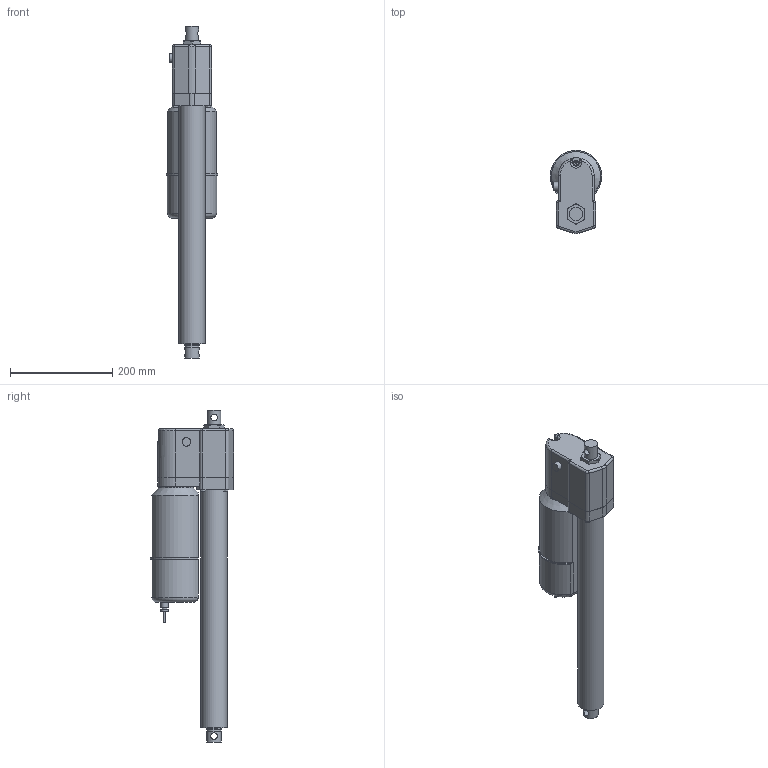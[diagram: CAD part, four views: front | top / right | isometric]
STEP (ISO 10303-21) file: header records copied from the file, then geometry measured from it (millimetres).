
FILE_DESCRIPTION (( 'STEP AP214' ), '1' );
FILE_NAME ('A22-05A5-14M0NPO-tollo.step', '2020-04-05T13:07:36', ( '' ), ( '' ), 'SwSTEP 2.0', 'SolidWorks 2010', '' );
FILE_SCHEMA (( 'AUTOMOTIVE_DESIGN' ));
Length unit declared in the file: millimetre
Products named in the file (7): Electrak-LA5-Motor-A22-05A5-14M0NPO-tollo_Electrak-LA5-Motor-A22-05A5-14M0NPO-tollo; Electrak-LA5-Rear-A22-05A5-14M0NPO-tollo_Electrak-LA5-Rear-A22-05A5-14M0NPO-tollo; Electrak-LA5-Tube-A22-05A5-14M0NPO-tollo_Electrak-LA5-Tube-A22-05A5-14M0NPO-tollo; Electrak-LA5-Rod-A22-05A5-14M0NPO-tollo_Electrak-LA5-Rod-A22-05A5-14M0NPO-tollo; Screw-MFX-H-M5-A22-05A5-14M0NPO-tollo_Screw-MFX-H-M5-A22-05A5-14M0NPO-tollo; Screw-M6S-M5-A22-05A5-14M0NPO-tollo_Screw-M6S-M5-A22-05A5-14M0NPO-tollo; A22-05A5-14M0NPO-tollo
Assembly tree (9 placements, depth 2):
  A22-05A5-14M0NPO-tollo
    Screw-MFX-H-M5-A22-05A5-14M0NPO-tollo_Screw-MFX-H-M5-A22-05A5-14M0NPO-tollo
    Electrak-LA5-Rod-A22-05A5-14M0NPO-tollo_Electrak-LA5-Rod-A22-05A5-14M0NPO-tollo
    Screw-M6S-M5-A22-05A5-14M0NPO-tollo_Screw-M6S-M5-A22-05A5-14M0NPO-tollo  x4
    Electrak-LA5-Motor-A22-05A5-14M0NPO-tollo_Electrak-LA5-Motor-A22-05A5-14M0NPO-tollo
    Electrak-LA5-Tube-A22-05A5-14M0NPO-tollo_Electrak-LA5-Tube-A22-05A5-14M0NPO-tollo
    Electrak-LA5-Rear-A22-05A5-14M0NPO-tollo_Electrak-LA5-Rear-A22-05A5-14M0NPO-tollo
Bounding box: 100.99 x 162.5 x 648 mm (x, y, z)
Volume: 3643315.5 mm3; surface area: 331553.5 mm2
Topology: 9 solids, 9 shells, 240 faces, 553 edges, 350 vertices
Faces by surface type: plane 96, cylinder 93, cone 31, torus 15, bspline 3, sphere 2
Full cylindrical faces by diameter (mm): 4 x1, 4.126 x5, 4.8 x2, 5 x13, 7.878 x4, 9.3 x1, 10 x1, 12.8 x2, 15 x2, 16.5 x1, 25.4 x1, 28.6 x4, 51.3 x1, 68 x1
Entity records: 5816 total; most frequent: CARTESIAN_POINT 1727, DIRECTION 814, ORIENTED_EDGE 670, AXIS2_PLACEMENT_3D 343, EDGE_CURVE 335, EDGE_LOOP 249, VERTEX_POINT 238, FACE_OUTER_BOUND 201
